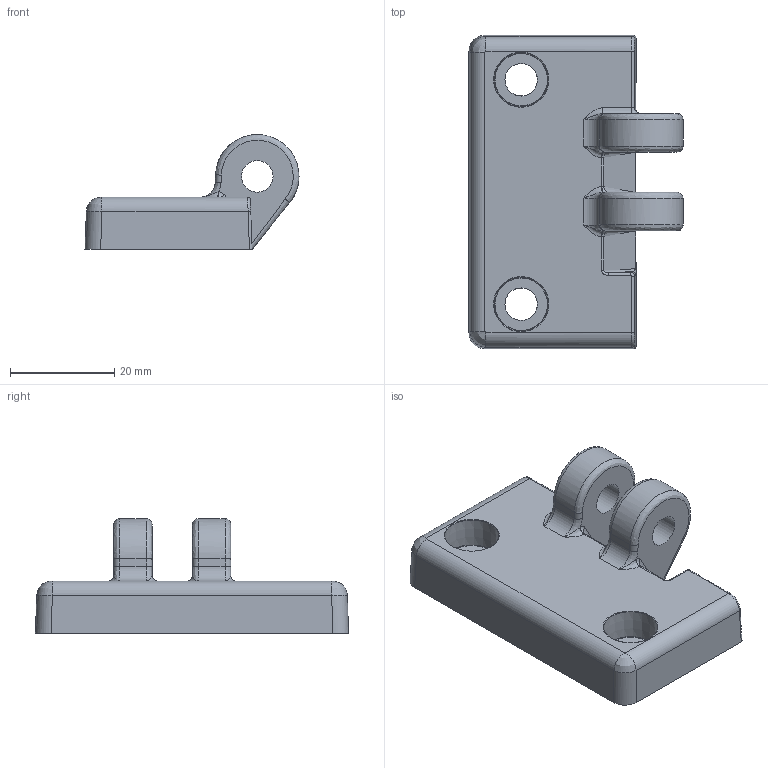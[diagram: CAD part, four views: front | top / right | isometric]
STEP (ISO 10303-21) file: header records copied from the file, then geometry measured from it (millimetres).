
FILE_DESCRIPTION (( 'STEP AP214' ), '1' );
FILE_NAME ('L19182A.step', '2024-12-03T16:23:44', ( '' ), ( '' ), 'SwSTEP 2.0', 'SolidWorks 2023', '' );
FILE_SCHEMA (( 'AUTOMOTIVE_DESIGN' ));
Length unit declared in the file: millimetre
Products named in the file (1): L19182A
Bounding box: 41 x 60 x 22 mm (x, y, z)
Volume: 19490.1 mm3; surface area: 7279.1 mm2
Topology: 1 solids, 1 shells, 913 faces, 2583 edges, 1702 vertices
Faces by surface type: plane 830, bspline 41, cylinder 30, torus 8, cone 4
Full cylindrical faces by diameter (mm): 6.05 x2, 8 x2, 10 x1
Entity records: 36671 total; most frequent: CARTESIAN_POINT 13463, ORIENTED_EDGE 5110, DIRECTION 4247, EDGE_CURVE 2555, VECTOR 2391, LINE 2391, VERTEX_POINT 1696, EDGE_LOOP 973
